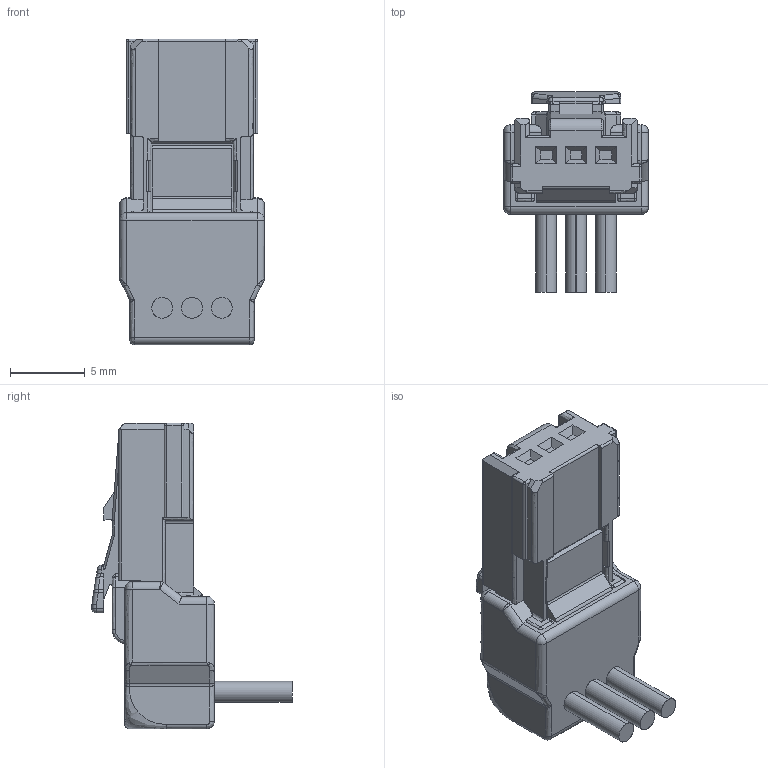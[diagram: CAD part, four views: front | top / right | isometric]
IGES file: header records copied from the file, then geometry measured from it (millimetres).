
Start section: SolidWorks IGES file using analytic representation for surfaces
Global section: file name: C:\Users\08803\Desktop\PDM\ISH全シリーズモデル(STEP)2017.2.6時点\水平\1列\3P\ISH CONNECTOR 3P FEMALE CONNECTOR with CABLE COVER.IGS; native system: SolidWorks 2017; preprocessor: SolidWorks 2017; author: 08803; date: 180820.134409; units: millimetre
Bounding box: 9.7 x 13.4 x 20.45 mm (x, y, z)
Surface area: 878.7 mm2 (no closed solid volume)
Topology: 0 solids, 0 shells, 319 faces, 2288 edges, 2268 vertices
Faces by surface type: bspline 177, revolution 142
